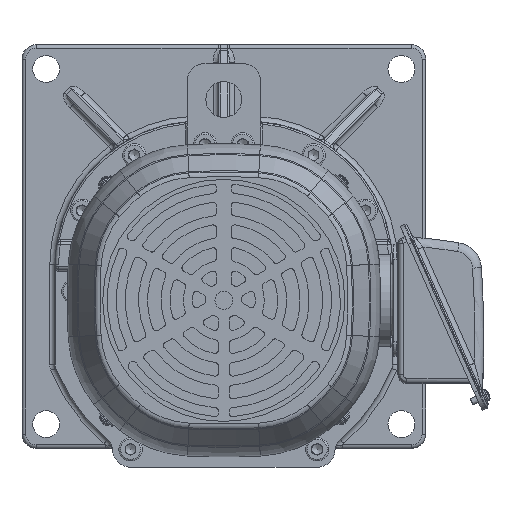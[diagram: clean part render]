
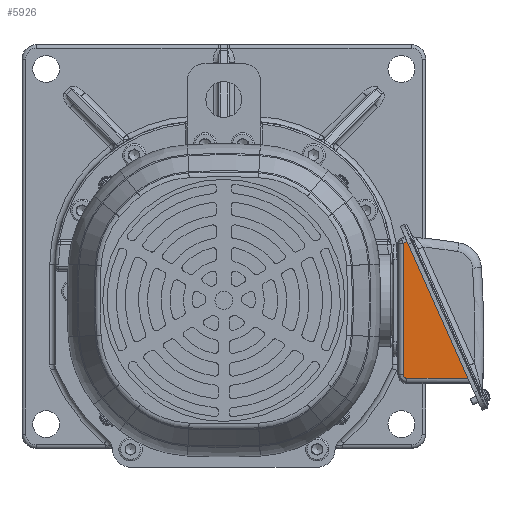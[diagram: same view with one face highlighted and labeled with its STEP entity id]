
A CAD part, left-side view. The second image highlights one B-rep face of the part: STEP entity #5926.
In plain terms, the highlighted planar face has unit normal (-1, 0, 0).
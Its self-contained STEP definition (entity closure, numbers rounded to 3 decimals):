
#5926 = ADVANCED_FACE( '', ( #12341 ), #12342, .T. );
#12341 = FACE_OUTER_BOUND( '', #34953, .T. );
#12342 = PLANE( '', #34954 );
#34953 = EDGE_LOOP( '', ( #52122, #52123, #52124, #52125, #52126 ) );
#34954 = AXIS2_PLACEMENT_3D( '', #52127, #52128, #52129 );
#52122 = ORIENTED_EDGE( '', *, *, #58606, .T. );
#52123 = ORIENTED_EDGE( '', *, *, #58343, .T. );
#52124 = ORIENTED_EDGE( '', *, *, #58997, .T. );
#52125 = ORIENTED_EDGE( '', *, *, #58166, .T. );
#52126 = ORIENTED_EDGE( '', *, *, #54878, .T. );
#52127 = CARTESIAN_POINT( '', ( -212.099, -208.71, 26.692 ) );
#52128 = DIRECTION( '', ( -1., 0., 0. ) );
#52129 = DIRECTION( '', ( 0., -1., 0. ) );
#54878 = EDGE_CURVE( '', #62787, #62792, #62794, .T. );
#58166 = EDGE_CURVE( '', #67553, #62787, #67555, .T. );
#58343 = EDGE_CURVE( '', #64715, #67755, #67762, .T. );
#58606 = EDGE_CURVE( '', #62792, #64715, #68068, .T. );
#58997 = EDGE_CURVE( '', #67755, #67553, #68526, .T. );
#62787 = VERTEX_POINT( '', #76153 );
#62792 = VERTEX_POINT( '', #76158 );
#62794 = CIRCLE( '', #76160, 2. );
#64715 = VERTEX_POINT( '', #79307 );
#67553 = VERTEX_POINT( '', #84883 );
#67555 = LINE( '', #84885, #84886 );
#67755 = VERTEX_POINT( '', #85140 );
#67762 = LINE( '', #85148, #85149 );
#68068 = LINE( '', #85908, #85909 );
#68526 = LINE( '', #86827, #86828 );
#76153 = CARTESIAN_POINT( '', ( -212.099, -208.71, -46.624 ) );
#76158 = CARTESIAN_POINT( '', ( -212.099, -210.71, -48.624 ) );
#76160 = AXIS2_PLACEMENT_3D( '', #90632, #90633, #90634 );
#79307 = CARTESIAN_POINT( '', ( -212.099, -246.107, -48.624 ) );
#84883 = CARTESIAN_POINT( '', ( -212.099, -208.71, 26.692 ) );
#84885 = CARTESIAN_POINT( '', ( -212.099, -208.71, 26.692 ) );
#84886 = VECTOR( '', #95552, 1000. );
#85140 = CARTESIAN_POINT( '', ( -212.099, -211.935, 28.128 ) );
#85148 = CARTESIAN_POINT( '', ( -212.099, -211.935, 28.128 ) );
#85149 = VECTOR( '', #95767, 1000. );
#85908 = CARTESIAN_POINT( '', ( -212.099, -208.71, -48.624 ) );
#85909 = VECTOR( '', #96073, 1000. );
#86827 = CARTESIAN_POINT( '', ( -212.099, -208.71, 26.692 ) );
#86828 = VECTOR( '', #96495, 1000. );
#90632 = CARTESIAN_POINT( '', ( -212.099, -210.71, -46.624 ) );
#90633 = DIRECTION( '', ( -1., 0., 0. ) );
#90634 = DIRECTION( '', ( 0., -1., 0. ) );
#95552 = DIRECTION( '', ( 0., 0., -1. ) );
#95767 = DIRECTION( '', ( 0., 0.407, 0.914 ) );
#96073 = DIRECTION( '', ( 0., -1., 0. ) );
#96495 = DIRECTION( '', ( 0., 0.914, -0.407 ) );
